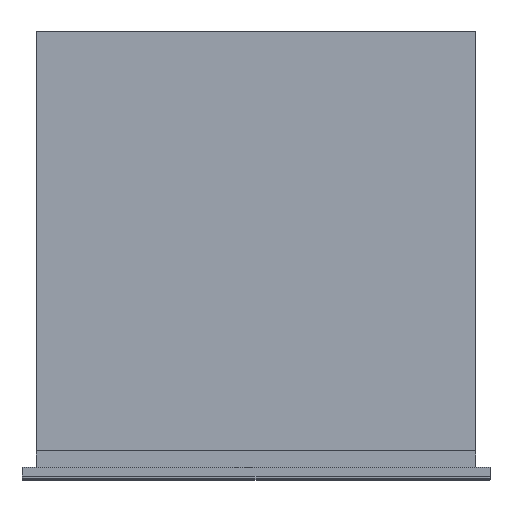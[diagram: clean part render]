
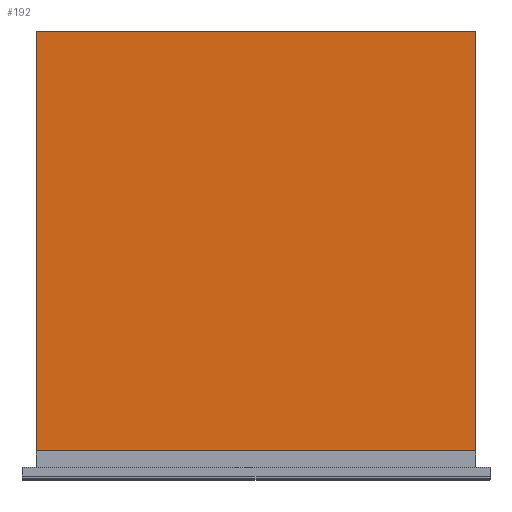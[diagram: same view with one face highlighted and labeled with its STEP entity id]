
A CAD part, top view. The second image highlights one B-rep face of the part: STEP entity #192.
In plain terms, the highlighted planar face has unit normal (0, 0, 1).
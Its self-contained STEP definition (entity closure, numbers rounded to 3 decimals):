
#192=ADVANCED_FACE('',(#260),#1108,.T.);
#260=FACE_OUTER_BOUND('',#332,.T.);
#332=EDGE_LOOP('',(#643,#644,#645,#646));
#643=ORIENTED_EDGE('',*,*,#813,.F.);
#644=ORIENTED_EDGE('',*,*,#803,.F.);
#645=ORIENTED_EDGE('',*,*,#814,.F.);
#646=ORIENTED_EDGE('',*,*,#811,.F.);
#803=EDGE_CURVE('',#1047,#1048,#939,.T.);
#811=EDGE_CURVE('',#1053,#1054,#947,.T.);
#813=EDGE_CURVE('',#1048,#1053,#949,.T.);
#814=EDGE_CURVE('',#1054,#1047,#950,.T.);
#939=B_SPLINE_CURVE_WITH_KNOTS('',1,(#1885,#1886),.UNSPECIFIED.,.F.,.F.,
(2,2),(0.,534.),.UNSPECIFIED.);
#947=B_SPLINE_CURVE_WITH_KNOTS('',1,(#1901,#1902),.UNSPECIFIED.,.F.,.F.,
(2,2),(0.,534.),.UNSPECIFIED.);
#949=B_SPLINE_CURVE_WITH_KNOTS('',1,(#1905,#1906),.UNSPECIFIED.,.F.,.F.,
(2,2),(-560.,0.),.UNSPECIFIED.);
#950=B_SPLINE_CURVE_WITH_KNOTS('',1,(#1907,#1908),.UNSPECIFIED.,.F.,.F.,
(2,2),(-560.,0.),.UNSPECIFIED.);
#1047=VERTEX_POINT('',#1877);
#1048=VERTEX_POINT('',#1878);
#1053=VERTEX_POINT('',#1883);
#1054=VERTEX_POINT('',#1884);
#1108=PLANE('',#1188);
#1188=AXIS2_PLACEMENT_3D('',#1874,#1251,$);
#1251=DIRECTION('',(0.,0.,1.));
#1874=CARTESIAN_POINT('',(336.06,-17.45,903.028));
#1877=CARTESIAN_POINT('',(280.,570.01,903.028));
#1878=CARTESIAN_POINT('',(280.,36.01,903.028));
#1883=CARTESIAN_POINT('',(-280.,36.01,903.028));
#1884=CARTESIAN_POINT('',(-280.,570.01,903.028));
#1885=CARTESIAN_POINT('',(280.,570.01,903.028));
#1886=CARTESIAN_POINT('',(280.,36.01,903.028));
#1901=CARTESIAN_POINT('',(-280.,36.01,903.028));
#1902=CARTESIAN_POINT('',(-280.,570.01,903.028));
#1905=CARTESIAN_POINT('',(280.,36.01,903.028));
#1906=CARTESIAN_POINT('',(-280.,36.01,903.028));
#1907=CARTESIAN_POINT('',(-280.,570.01,903.028));
#1908=CARTESIAN_POINT('',(280.,570.01,903.028));
